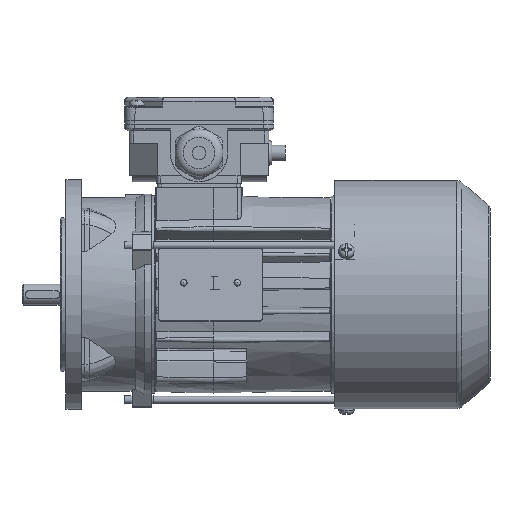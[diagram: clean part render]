
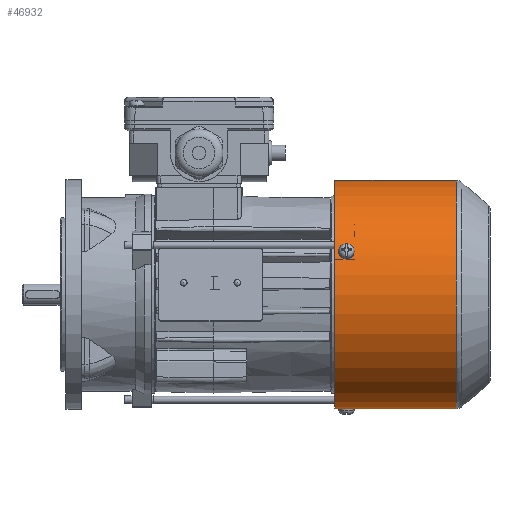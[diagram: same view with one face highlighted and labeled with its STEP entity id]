
A CAD part, front view. The second image highlights one B-rep face of the part: STEP entity #46932.
In plain terms, the highlighted cylindrical face has radius 59.6 mm (diameter 119.2 mm), a full revolution.
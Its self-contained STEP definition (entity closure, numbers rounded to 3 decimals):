
#981=B_SPLINE_CURVE_WITH_KNOTS('',3,(#70418,#70419,#70420,#70421,#70422,
#70423,#70424),.UNSPECIFIED.,.F.,.F.,(4,1,1,1,4),(0.,
0.002,0.004,0.006,0.007),
 .UNSPECIFIED.);
#982=B_SPLINE_CURVE_WITH_KNOTS('',3,(#70426,#70427,#70428,#70429,#70430,
#70431,#70432),.UNSPECIFIED.,.F.,.F.,(4,1,1,1,4),(0.,
0.002,0.004,0.006,0.007),
 .UNSPECIFIED.);
#983=B_SPLINE_CURVE_WITH_KNOTS('',3,(#70438,#70439,#70440,#70441,#70442,
#70443,#70444),.UNSPECIFIED.,.F.,.F.,(4,1,1,1,4),(0.,0.002,
0.004,0.006,0.008),
 .UNSPECIFIED.);
#984=B_SPLINE_CURVE_WITH_KNOTS('',3,(#70452,#70453,#70454,#70455,#70456,
#70457,#70458),.UNSPECIFIED.,.F.,.F.,(4,1,1,1,4),(0.,
0.002,0.004,0.006,0.008),
 .UNSPECIFIED.);
#985=B_SPLINE_CURVE_WITH_KNOTS('',3,(#70469,#70470,#70471,#70472,#70473,
#70474,#70475),.UNSPECIFIED.,.F.,.F.,(4,1,1,1,4),(0.,0.002,
0.004,0.006,0.008),
 .UNSPECIFIED.);
#986=B_SPLINE_CURVE_WITH_KNOTS('',3,(#70483,#70484,#70485,#70486,#70487,
#70488,#70489),.UNSPECIFIED.,.F.,.F.,(4,1,1,1,4),(0.,0.002,
0.004,0.006,0.008),
 .UNSPECIFIED.);
#14068=ORIENTED_EDGE('',*,*,#20708,.T.);
#14069=ORIENTED_EDGE('',*,*,#20706,.T.);
#14070=ORIENTED_EDGE('',*,*,#20711,.T.);
#14071=ORIENTED_EDGE('',*,*,#20710,.T.);
#14072=ORIENTED_EDGE('',*,*,#20702,.F.);
#14073=ORIENTED_EDGE('',*,*,#20703,.F.);
#14074=ORIENTED_EDGE('',*,*,#20717,.T.);
#14075=ORIENTED_EDGE('',*,*,#20715,.T.);
#14076=ORIENTED_EDGE('',*,*,#20720,.T.);
#14077=ORIENTED_EDGE('',*,*,#20719,.T.);
#14078=ORIENTED_EDGE('',*,*,#20856,.F.);
#14079=ORIENTED_EDGE('',*,*,#20712,.T.);
#20702=EDGE_CURVE('',#24600,#24599,#981,.T.);
#20703=EDGE_CURVE('',#24599,#24600,#982,.T.);
#20706=EDGE_CURVE('',#24643,#24644,#983,.T.);
#20708=EDGE_CURVE('',#24645,#24643,#26733,.F.);
#20710=EDGE_CURVE('',#24646,#24645,#984,.T.);
#20711=EDGE_CURVE('',#24644,#24646,#26734,.F.);
#20712=EDGE_CURVE('',#24647,#24647,#26735,.F.);
#20715=EDGE_CURVE('',#24648,#24649,#985,.T.);
#20717=EDGE_CURVE('',#24650,#24648,#26736,.F.);
#20719=EDGE_CURVE('',#24651,#24650,#986,.T.);
#20720=EDGE_CURVE('',#24649,#24651,#26737,.F.);
#20856=EDGE_CURVE('',#24762,#24762,#26786,.T.);
#24599=VERTEX_POINT('',#70264);
#24600=VERTEX_POINT('',#70265);
#24643=VERTEX_POINT('',#70435);
#24644=VERTEX_POINT('',#70437);
#24645=VERTEX_POINT('',#70447);
#24646=VERTEX_POINT('',#70451);
#24647=VERTEX_POINT('',#70463);
#24648=VERTEX_POINT('',#70466);
#24649=VERTEX_POINT('',#70468);
#24650=VERTEX_POINT('',#70478);
#24651=VERTEX_POINT('',#70482);
#24762=VERTEX_POINT('',#70873);
#26733=CIRCLE('',#49664,59.6);
#26734=CIRCLE('',#49667,59.6);
#26735=CIRCLE('',#49669,59.6);
#26736=CIRCLE('',#49672,59.6);
#26737=CIRCLE('',#49675,59.6);
#26786=CIRCLE('',#49783,59.6);
#28792=EDGE_LOOP('',(#14068,#14069,#14070,#14071));
#28793=EDGE_LOOP('',(#14072,#14073));
#28794=EDGE_LOOP('',(#14074,#14075,#14076,#14077));
#28795=EDGE_LOOP('',(#14078));
#28796=EDGE_LOOP('',(#14079));
#31085=FACE_BOUND('',#28792,.T.);
#31086=FACE_BOUND('',#28793,.T.);
#31087=FACE_BOUND('',#28794,.T.);
#31088=FACE_BOUND('',#28795,.T.);
#31089=FACE_BOUND('',#28796,.T.);
#32296=CYLINDRICAL_SURFACE('',#49782,59.6);
#46932=ADVANCED_FACE('',(#31085,#31086,#31087,#31088,#31089),#32296,.T.);
#49664=AXIS2_PLACEMENT_3D('',#70448,#57065,#57066);
#49667=AXIS2_PLACEMENT_3D('',#70460,#57072,#57073);
#49669=AXIS2_PLACEMENT_3D('',#70462,#57076,#57077);
#49672=AXIS2_PLACEMENT_3D('',#70479,#57085,#57086);
#49675=AXIS2_PLACEMENT_3D('',#70491,#57092,#57093);
#49782=AXIS2_PLACEMENT_3D('',#70871,#57369,#57370);
#49783=AXIS2_PLACEMENT_3D('',#70872,#57371,#57372);
#57065=DIRECTION('',(-1.,0.,0.));
#57066=DIRECTION('',(0.,0.866,-0.5));
#57072=DIRECTION('',(1.,0.,0.));
#57073=DIRECTION('',(0.,-0.866,0.5));
#57076=DIRECTION('',(1.,0.,0.));
#57077=DIRECTION('',(0.,0.,-1.));
#57085=DIRECTION('',(-1.,0.,0.));
#57086=DIRECTION('',(0.,0.,1.));
#57092=DIRECTION('',(1.,0.,0.));
#57093=DIRECTION('',(0.,0.,-1.));
#57369=DIRECTION('',(-1.,0.,0.));
#57370=DIRECTION('',(0.,0.,1.));
#57371=DIRECTION('',(-1.,0.,0.));
#57372=DIRECTION('',(0.,0.,1.));
#70264=CARTESIAN_POINT('',(67.,8.295,-59.02));
#70265=CARTESIAN_POINT('',(72.,8.295,-59.02));
#70418=CARTESIAN_POINT('',(72.,8.295,-59.02));
#70419=CARTESIAN_POINT('',(71.937,7.681,-59.106));
#70420=CARTESIAN_POINT('',(71.356,6.499,-59.249));
#70421=CARTESIAN_POINT('',(69.502,5.777,-59.318));
#70422=CARTESIAN_POINT('',(67.649,6.493,-59.25));
#70423=CARTESIAN_POINT('',(67.063,7.681,-59.106));
#70424=CARTESIAN_POINT('',(67.,8.295,-59.02));
#70426=CARTESIAN_POINT('',(67.,8.295,-59.02));
#70427=CARTESIAN_POINT('',(67.063,8.908,-58.934));
#70428=CARTESIAN_POINT('',(67.644,10.084,-58.746));
#70429=CARTESIAN_POINT('',(69.498,10.797,-58.613));
#70430=CARTESIAN_POINT('',(71.351,10.09,-58.745));
#70431=CARTESIAN_POINT('',(71.937,8.908,-58.934));
#70432=CARTESIAN_POINT('',(72.,8.295,-59.02));
#70435=CARTESIAN_POINT('',(72.,46.437,37.36));
#70437=CARTESIAN_POINT('',(67.,46.437,37.36));
#70438=CARTESIAN_POINT('',(72.,46.437,37.36));
#70439=CARTESIAN_POINT('',(72.,46.023,37.874));
#70440=CARTESIAN_POINT('',(71.458,45.191,38.867));
#70441=CARTESIAN_POINT('',(69.502,44.648,39.479));
#70442=CARTESIAN_POINT('',(67.542,45.19,38.869));
#70443=CARTESIAN_POINT('',(67.,46.023,37.874));
#70444=CARTESIAN_POINT('',(67.,46.437,37.36));
#70447=CARTESIAN_POINT('',(72.,47.484,36.02));
#70448=CARTESIAN_POINT('',(72.,0.,0.));
#70451=CARTESIAN_POINT('',(67.,47.484,36.02));
#70452=CARTESIAN_POINT('',(67.,47.484,36.02));
#70453=CARTESIAN_POINT('',(67.,47.883,35.493));
#70454=CARTESIAN_POINT('',(67.542,48.645,34.446));
#70455=CARTESIAN_POINT('',(69.498,49.108,33.771));
#70456=CARTESIAN_POINT('',(71.458,48.646,34.444));
#70457=CARTESIAN_POINT('',(72.,47.883,35.493));
#70458=CARTESIAN_POINT('',(72.,47.484,36.02));
#70460=CARTESIAN_POINT('',(67.,0.,0.));
#70462=CARTESIAN_POINT('',(126.809,0.,0.));
#70463=CARTESIAN_POINT('',(126.809,0.,-59.6));
#70466=CARTESIAN_POINT('',(72.,-55.573,21.536));
#70468=CARTESIAN_POINT('',(67.,-55.573,21.536));
#70469=CARTESIAN_POINT('',(72.,-55.573,21.536));
#70470=CARTESIAN_POINT('',(72.,-55.812,20.92));
#70471=CARTESIAN_POINT('',(71.458,-56.255,19.703));
#70472=CARTESIAN_POINT('',(69.502,-56.514,18.927));
#70473=CARTESIAN_POINT('',(67.542,-56.256,19.701));
#70474=CARTESIAN_POINT('',(67.,-55.812,20.92));
#70475=CARTESIAN_POINT('',(67.,-55.573,21.536));
#70478=CARTESIAN_POINT('',(72.,-54.936,23.112));
#70479=CARTESIAN_POINT('',(72.,0.,0.));
#70482=CARTESIAN_POINT('',(67.,-54.936,23.112));
#70483=CARTESIAN_POINT('',(67.,-54.936,23.112));
#70484=CARTESIAN_POINT('',(67.,-54.68,23.721));
#70485=CARTESIAN_POINT('',(67.542,-54.154,24.905));
#70486=CARTESIAN_POINT('',(69.498,-53.8,25.643));
#70487=CARTESIAN_POINT('',(71.458,-54.153,24.907));
#70488=CARTESIAN_POINT('',(72.,-54.68,23.721));
#70489=CARTESIAN_POINT('',(72.,-54.936,23.112));
#70491=CARTESIAN_POINT('',(67.,0.,0.));
#70871=CARTESIAN_POINT('',(3.5,0.,0.));
#70872=CARTESIAN_POINT('',(63.5,0.,0.));
#70873=CARTESIAN_POINT('',(63.5,0.,59.6));
